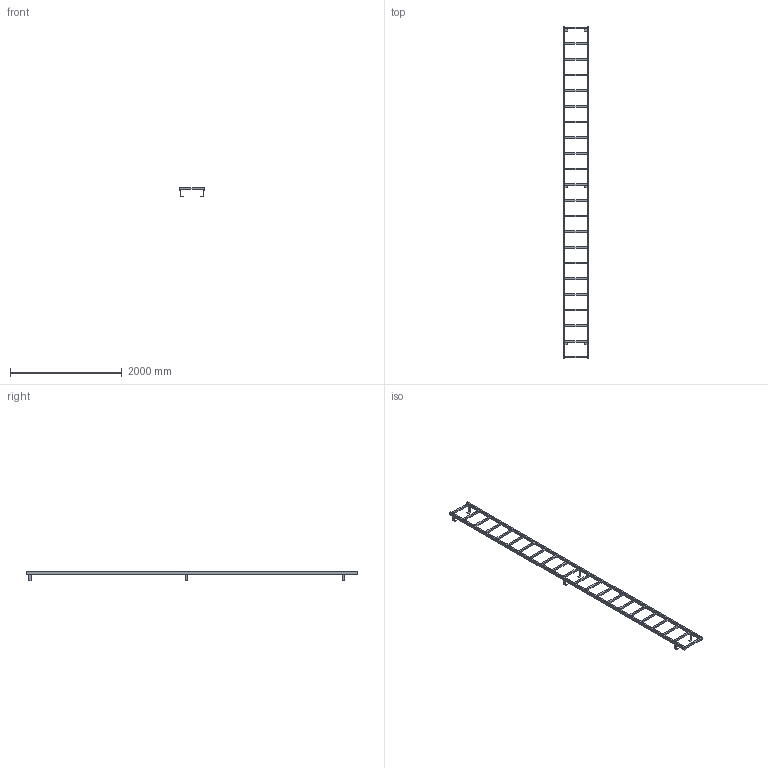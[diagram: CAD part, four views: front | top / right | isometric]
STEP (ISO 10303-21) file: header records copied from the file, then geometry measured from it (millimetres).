
FILE_DESCRIPTION((''),'2;1');
FILE_NAME('017_000109','2017-06-19T',('set'),('HUBER SE'),'PRO/ENGINEER BY PARAMETRIC TECHNOLOGY CORPORATION, 2015280','PRO/ENGINEER BY PARAMETRIC TECHNOLOGY CORPORATION, 2015280','');
FILE_SCHEMA(('CONFIG_CONTROL_DESIGN'));
Length unit declared in the file: millimetre
Products named in the file (1): 017_000109
Bounding box: 450 x 5930 x 178.5 mm (x, y, z)
Volume: 24917940 mm3; surface area: 3056372 mm2
Topology: 1 solids, 1 shells, 146 faces, 533 edges, 383 vertices
Faces by surface type: plane 146
Entity records: 5586 total; most frequent: CARTESIAN_POINT 1125, ORIENTED_EDGE 864, DIRECTION 824, VECTOR 486, LINE 486, EDGE_CURVE 432, VERTEX_POINT 282, EDGE_LOOP 182
